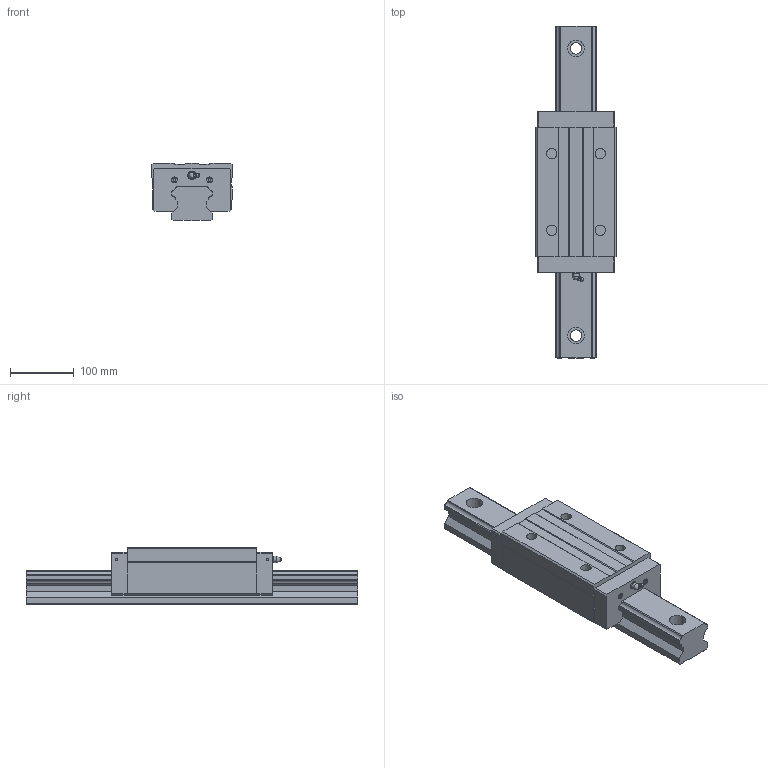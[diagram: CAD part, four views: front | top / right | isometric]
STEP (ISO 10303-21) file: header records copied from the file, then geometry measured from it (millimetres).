
FILE_DESCRIPTION(/* description */ (''),/* implementation_level */ '2;1');
FILE_NAME(/* name */ 'MSA65LS',/* time_stamp */ '2005-12-26T16:34:04+08:00',/* author */ (''),/* organization */ (''),/* preprocessor_version */ 'ST-DEVELOPER v9',/* originating_system */ 'UGS - NX 3.0',/* authorisation */ '');
FILE_SCHEMA (('CONFIG_CONTROL_DESIGN'));
Length unit declared in the file: millimetre
Products named in the file (1): kevi37F33h5a
Bounding box: 126 x 520 x 90 mm (x, y, z)
Volume: 3199145.3 mm3; surface area: 285648.1 mm2
Topology: 3 solids, 3 shells, 180 faces, 451 edges, 298 vertices
Faces by surface type: plane 122, cylinder 47, torus 7, sphere 2, cone 1, bspline 1
Full cylindrical faces by diameter (mm): 3.3 x4, 4.5 x4, 9 x4, 10 x1, 13 x2, 16 x4, 18 x4, 26 x4
Entity records: 5382 total; most frequent: CARTESIAN_POINT 1070, DIRECTION 863, ORIENTED_EDGE 826, EDGE_CURVE 413, AXIS2_PLACEMENT_3D 293, VERTEX_POINT 292, LINE 277, VECTOR 277
